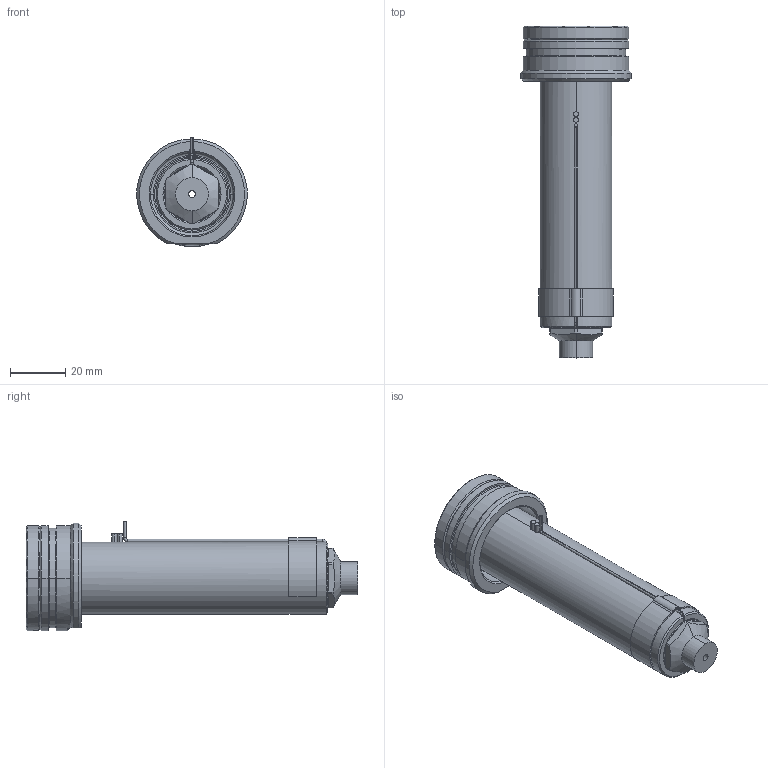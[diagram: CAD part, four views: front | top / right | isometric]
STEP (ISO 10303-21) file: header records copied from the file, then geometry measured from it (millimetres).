
FILE_DESCRIPTION((''),'2;1');
FILE_NAME('EO08_VG-FB_WR_100_SW','2024-02-19T13:31:01',('sundharh'),(''),'CREO PARAMETRIC BY PTC INC, 2023154','CREO PARAMETRIC BY PTC INC, 2023154','');
FILE_SCHEMA(('CONFIG_CONTROL_DESIGN'));
Length unit declared in the file: millimetre
Products named in the file (1): EO08_VG-FB_WR_100_SW
Bounding box: 39.88 x 120 x 39.52 mm (x, y, z)
Volume: 63938.8 mm3; surface area: 19325.5 mm2
Topology: 1 solids, 1 shells, 202 faces, 494 edges, 299 vertices
Faces by surface type: cylinder 72, plane 46, cone 41, torus 29, bspline 12, sphere 2
Entity records: 7314 total; most frequent: CARTESIAN_POINT 2456, DIRECTION 1089, ORIENTED_EDGE 980, EDGE_CURVE 490, AXIS2_PLACEMENT_3D 458, VERTEX_POINT 299, CIRCLE 268, EDGE_LOOP 219
